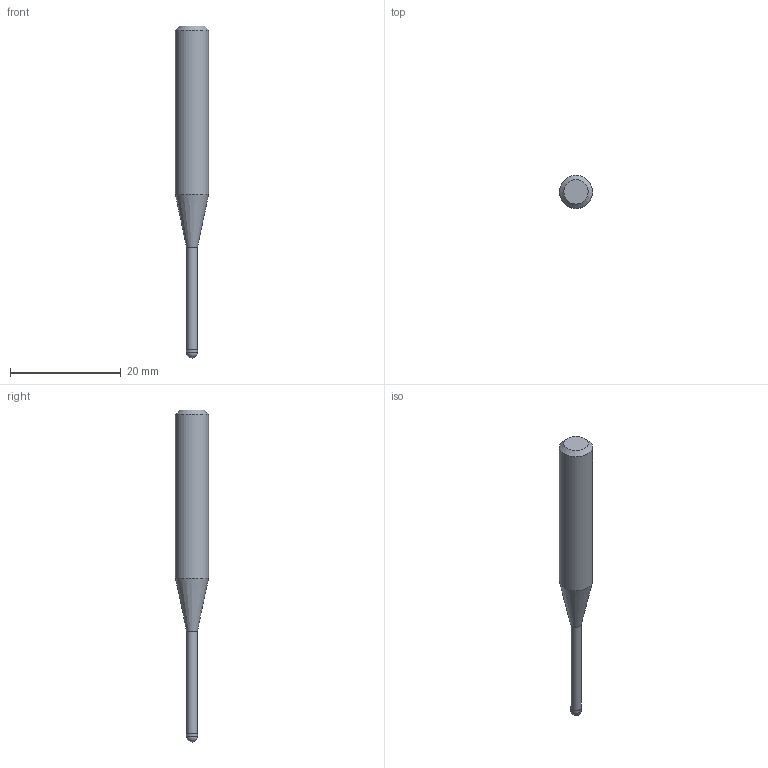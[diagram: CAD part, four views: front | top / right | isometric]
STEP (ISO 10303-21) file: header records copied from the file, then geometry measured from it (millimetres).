
FILE_DESCRIPTION((''),'2;1');
FILE_NAME('C:\Users\nsx150\AppData\Local\Temp\Mastercam 2021\3SYKECWX22\TEMP.step','2021-04-22T10:04:20',(''),(''),'STEP Write','Mastercam 2021 ... CNC Software, Inc.','');
FILE_SCHEMA(('AUTOMOTIVE_DESIGN'));
Length unit declared in the file: millimetre
Products named in the file (1): None
Bounding box: 6 x 6 x 60 mm (x, y, z)
Volume: 1042.3 mm3; surface area: 842.6 mm2
Topology: 2 solids, 2 shells, 9 faces, 14 edges, 8 vertices
Faces by surface type: plane 3, cylinder 3, cone 2, sphere 1
Full cylindrical faces by diameter (mm): 1.94 x1, 2 x1, 6 x1
Entity records: 211 total; most frequent: DIRECTION 36, CARTESIAN_POINT 25, AXIS2_PLACEMENT_3D 18, ORIENTED_EDGE 14, EDGE_LOOP 14, STYLED_ITEM 12, ADVANCED_FACE 9, FACE_BOUND 8
